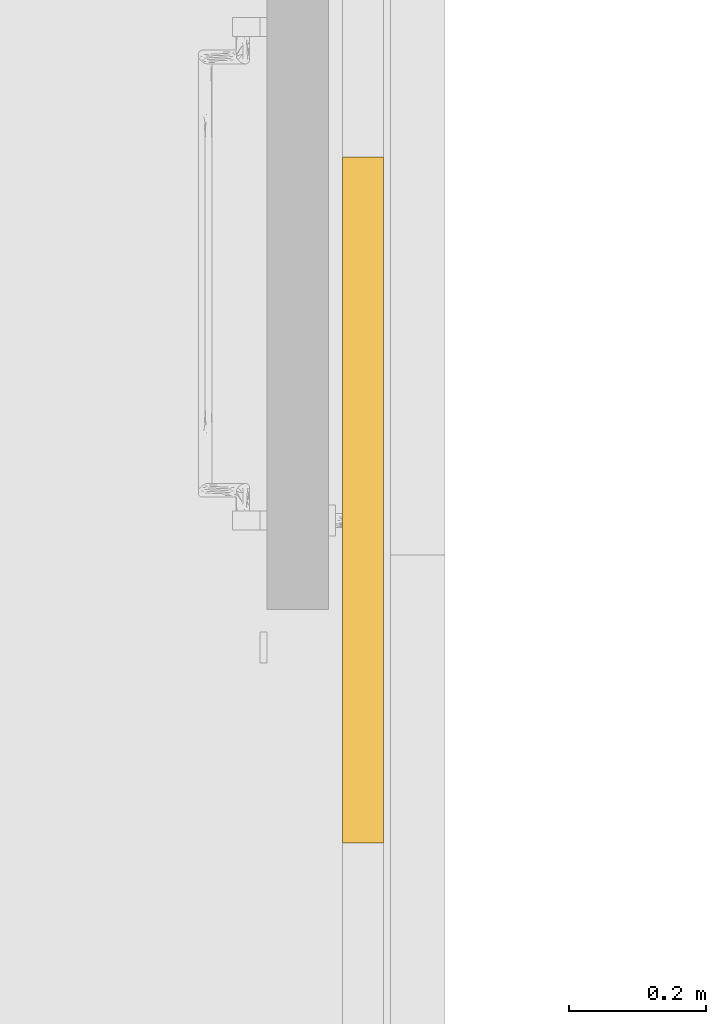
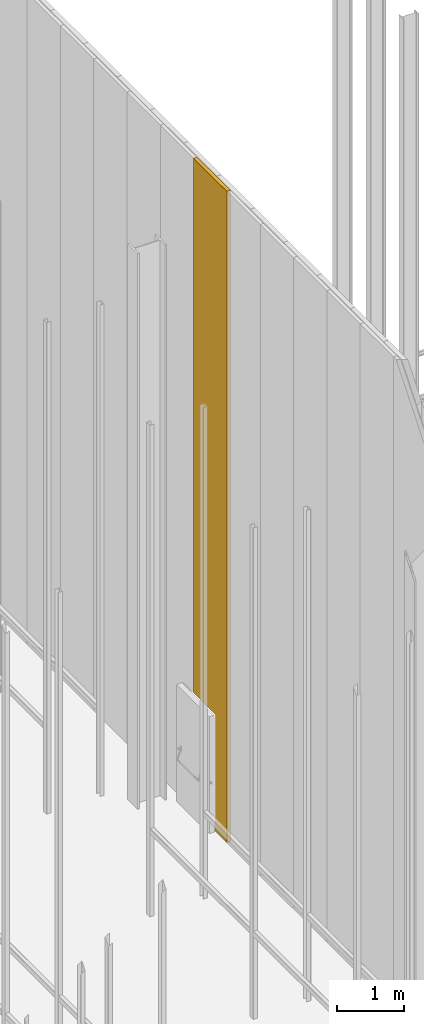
# One storey, part 242 of 302: 1 curtain wall, 1 opening, 1 element without a shape of its own.
"""IFC2X3 building model written with IfcOpenShell, lengths in metres."""

from ifc_helpers import new_model, entity, si_unit, converted_unit, derived_unit, direction, frame, frame_2d, origin, place, context, subcontext, project, spatial, rectangle, extrude, material, layer, layer_set, layer_usage, type_object, element, aggregate, save


model = new_model("IFC2X3")

# Units and contexts
model_context = context("Model", 3, precision=1e-05, world=origin(), true_north=direction((6.12303176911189e-17, 1.0)))
body_context = subcontext(model_context, "Body", "Model", "MODEL_VIEW")
ifc_project = project(units=[si_unit("LENGTHUNIT", "METRE"), si_unit("AREAUNIT", "SQUARE_METRE"), si_unit("VOLUMEUNIT", "CUBIC_METRE"), converted_unit("PLANEANGLEUNIT", "DEGREE", entity("IfcRatioMeasure", 0.0174532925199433), si_unit("PLANEANGLEUNIT", "RADIAN"), dimensions=[0, 0, 0, 0, 0, 0, 0]), si_unit("MASSUNIT", "GRAM", prefix="KILO"), derived_unit("MASSDENSITYUNIT", [(si_unit("MASSUNIT", "GRAM", prefix="KILO"), 1), (si_unit("LENGTHUNIT", "METRE"), -3)]), derived_unit("MOMENTOFINERTIAUNIT", [(si_unit("LENGTHUNIT", "METRE"), 4)]), si_unit("TIMEUNIT", "SECOND"), si_unit("FREQUENCYUNIT", "HERTZ"), si_unit("THERMODYNAMICTEMPERATUREUNIT", "DEGREE_CELSIUS"), derived_unit("THERMALTRANSMITTANCEUNIT", [(si_unit("MASSUNIT", "GRAM", prefix="KILO"), 1), (si_unit("THERMODYNAMICTEMPERATUREUNIT", "KELVIN"), -1), (si_unit("TIMEUNIT", "SECOND"), -3)]), derived_unit("VOLUMETRICFLOWRATEUNIT", [(si_unit("LENGTHUNIT", "METRE"), 3), (si_unit("TIMEUNIT", "SECOND"), -1)]), si_unit("ELECTRICCURRENTUNIT", "AMPERE"), si_unit("ELECTRICVOLTAGEUNIT", "VOLT"), si_unit("POWERUNIT", "WATT"), si_unit("FORCEUNIT", "NEWTON", prefix="KILO"), si_unit("ILLUMINANCEUNIT", "LUX"), si_unit("LUMINOUSFLUXUNIT", "LUMEN"), si_unit("LUMINOUSINTENSITYUNIT", "CANDELA"), derived_unit("USERDEFINED", [(si_unit("MASSUNIT", "GRAM", prefix="KILO"), -1), (si_unit("LENGTHUNIT", "METRE"), -2), (si_unit("TIMEUNIT", "SECOND"), 3), (si_unit("LUMINOUSFLUXUNIT", "LUMEN"), 1)]), derived_unit("LINEARVELOCITYUNIT", [(si_unit("LENGTHUNIT", "METRE"), 1), (si_unit("TIMEUNIT", "SECOND"), -1)]), si_unit("PRESSUREUNIT", "PASCAL"), derived_unit("USERDEFINED", [(si_unit("LENGTHUNIT", "METRE"), -2), (si_unit("MASSUNIT", "GRAM", prefix="KILO"), 1), (si_unit("TIMEUNIT", "SECOND"), -2)]), derived_unit("LINEARFORCEUNIT", [(si_unit("MASSUNIT", "GRAM", prefix="KILO"), 1), (si_unit("LENGTHUNIT", "METRE"), 1), (si_unit("TIMEUNIT", "SECOND"), -2), (si_unit("LENGTHUNIT", "METRE"), -1)]), derived_unit("PLANARFORCEUNIT", [(si_unit("MASSUNIT", "GRAM", prefix="KILO"), 1), (si_unit("LENGTHUNIT", "METRE"), 1), (si_unit("TIMEUNIT", "SECOND"), -2), (si_unit("LENGTHUNIT", "METRE"), -2)])], contexts=[model_context])

# Site, building, storey
site_placement = place(None, origin())
site = spatial("IfcSite", under=ifc_project, at=site_placement, Name="Default", CompositionType="ELEMENT")
building_placement = place(site_placement, origin())
building = spatial("IfcBuilding", under=site, at=building_placement, CompositionType="ELEMENT")
storey_placement = place(building_placement, frame((0.0, 0.0, -1.3)))
storey = spatial("IfcBuildingStorey", under=building, at=storey_placement, Name="00_EG", CompositionType="ELEMENT", Elevation=-1.3)

# Curtain walls, opening
curtain_wall_type_1 = type_object("IfcCurtainWallType", PredefinedType="NOTDEFINED")
curtain_wall_1_placement = place(storey_placement, frame((0.0, 0.0, 1.3)))
curtain_wall_1 = element("IfcCurtainWall", 1, at=curtain_wall_1_placement, inside=storey, type_object=curtain_wall_type_1)
ifc_material_1 = material(Name="Prepainted_Steel-ArcelorMittal_Construction_HAIRULTRA-35-CORAL-4309-[RAL_3000]")
ifc_layer_1 = layer(ifc_material_1, 0.01)
ifc_material_2 = material(Name="ArcelorMittal-MineralWool")
ifc_layer_2 = layer(ifc_material_2, 0.04)
ifc_layer_3 = layer(ifc_material_1, 0.01)
ifc_layer_set = layer_set([ifc_layer_1, ifc_layer_2, ifc_layer_3], Name="Fassade:Sandwichpaneele Gebäude B 60mm")
ifc_layer_usage = layer_usage(ifc_layer_set, "AXIS2", "POSITIVE", -0.03)
curtain_wall_type_2 = type_object("IfcCurtainWallType", Name="Basiswand:Sandwichpaneele d = 6cm aussen", PredefinedType="NOTDEFINED", material=ifc_layer_set)
curtain_wall_2_placement = place(storey_placement, frame((-177.390111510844, 46.7480889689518, 1.27), z_axis=(0.0, 0.0, 1.0), x_axis=(0.0, 1.0, 0.0)))
curtain_wall_2 = element("IfcCurtainWall", 2, at=curtain_wall_2_placement, type_object=curtain_wall_type_2, material=ifc_layer_usage, Name="Basiswand:Sandwichpaneele d = 6cm aussen", ObjectType="Basiswand:Sandwichpaneele d = 6cm aussen", context=body_context, shape_type="SweptSolid", body=[
    extrude(rectangle(XDim=0.999999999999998, YDim=0.0599999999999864, at=frame_2d((0.499999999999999, 0.0), x_axis=(-1.0, 0.0))), origin(), (0.0, 0.0, 1.0), 11.9314),
])
opening_placement = place(curtain_wall_2_placement, frame((-46.7480889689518, -177.390111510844, -1.27), z_axis=(0.0, 0.0, 1.0), x_axis=(0.0, -1.0, 0.0)))
element("IfcOpeningElement", 3, at=opening_placement, cuts=curtain_wall_2, Name="Basiswand:Sandwichpaneele d = 6cm aussen", ObjectType="Opening", context=body_context, shape_type="SweptSolid", body=[
    extrude(rectangle(XDim=2.16999999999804, YDim=0.979999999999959, at=frame_2d((-5.55111512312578e-16, 2.60069743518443e-14), x_axis=(1.0, 0.0))), frame((-177.270111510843, 47.578088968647, 2.324999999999), z_axis=(-1.0, 0.0, 0.0), x_axis=(0.0, 0.0, -1.0)), (0.0, 0.0, 1.0), 0.169999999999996),
])
aggregate(curtain_wall_1, [curtain_wall_2])

save(model, "model.ifc")
